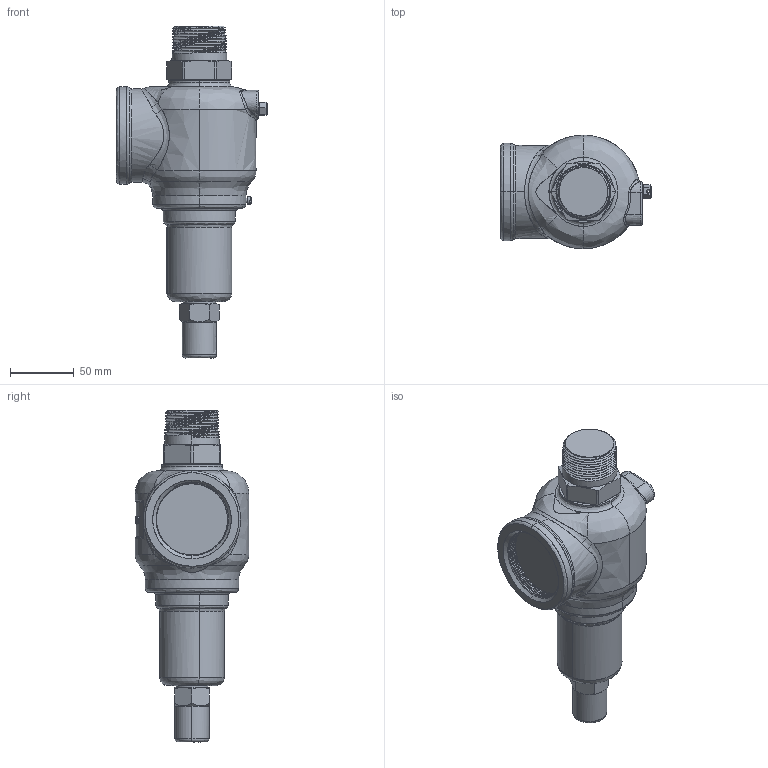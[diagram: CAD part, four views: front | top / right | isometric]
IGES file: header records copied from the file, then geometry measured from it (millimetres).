
Start section: SolidWorks IGES file using NURBS representation for surfaces
Global section: file name: C:\Design\Design\Aquatrol\Customer 3D Files\Series 740 Customer Files\G Orifice\Customer\Iges Files\Series 740 G 1250 x 2000 Closed Cap.IGS; native system: SolidWorks 2015; preprocessor: SolidWorks 2015; author: Karl; date: 150515.103417; units: inch
Bounding box: 118.63 x 88.9 x 260.1 mm (x, y, z)
Surface area: 68421.8 mm2 (no closed solid volume)
Topology: 0 solids, 0 shells, 326 faces, 7031 edges, 7031 vertices
Faces by surface type: bspline 326
